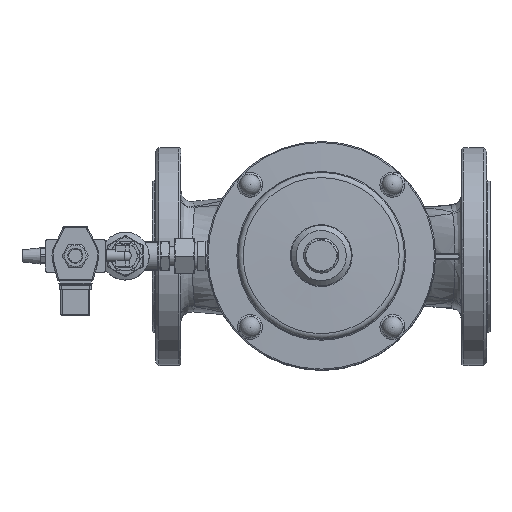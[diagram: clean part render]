
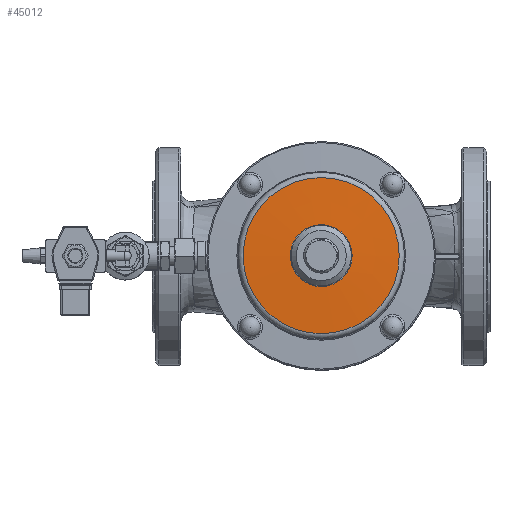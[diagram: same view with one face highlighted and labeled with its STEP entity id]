
A CAD part, top view. The second image highlights one B-rep face of the part: STEP entity #45012.
In plain terms, the highlighted conical face has half-angle 88 degrees and reference radius 52.247 mm.
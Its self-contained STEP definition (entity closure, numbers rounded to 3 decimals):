
#44981=CARTESIAN_POINT('',(-28.387,0.,540.986));
#44982=VERTEX_POINT('',#44981);
#44983=CARTESIAN_POINT('',(0.,0.,540.986));
#44984=DIRECTION('',(0.0,0.0,1.0));
#44985=DIRECTION('',(1.0,0.0,0.0));
#44986=AXIS2_PLACEMENT_3D('',#44983,#44984,#44985);
#44987=CIRCLE('',#44986,28.387);
#44988=EDGE_CURVE('',#44982,#44982,#44987,.T.);
#44993=CARTESIAN_POINT('',(0.,0.,540.153));
#44994=DIRECTION('',(0.,0.,-1.0));
#44995=DIRECTION('',(-1.0,0.0,0.0));
#44996=AXIS2_PLACEMENT_3D('',#44993,#44994,#44995);
#44997=CONICAL_SURFACE('',#44996,52.247,88.);
#44998=CARTESIAN_POINT('',(-71.674,0.,539.475));
#44999=VERTEX_POINT('',#44998);
#45000=CARTESIAN_POINT('',(0.,0.,539.475));
#45001=DIRECTION('',(0.0,0.0,-1.0));
#45002=DIRECTION('',(1.0,0.0,0.0));
#45003=AXIS2_PLACEMENT_3D('',#45000,#45001,#45002);
#45004=CIRCLE('',#45003,71.674);
#45005=EDGE_CURVE('',#44999,#44999,#45004,.T.);
#45006=ORIENTED_EDGE('',*,*,#45005,.F.);
#45007=EDGE_LOOP('',(#45006));
#45008=FACE_OUTER_BOUND('',#45007,.T.);
#45009=ORIENTED_EDGE('',*,*,#44988,.F.);
#45010=EDGE_LOOP('',(#45009));
#45011=FACE_BOUND('',#45010,.T.);
#45012=ADVANCED_FACE('',(#45008,#45011),#44997,.T.);
